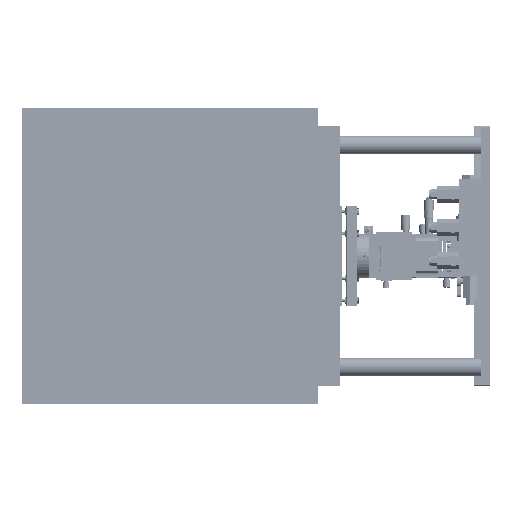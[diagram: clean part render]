
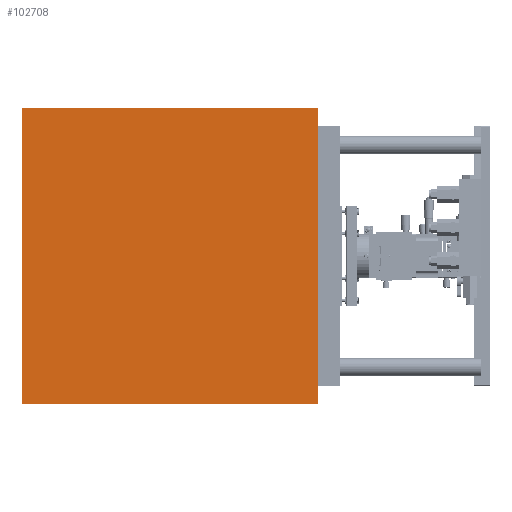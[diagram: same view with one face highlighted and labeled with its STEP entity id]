
A CAD part, left-side view. The second image highlights one B-rep face of the part: STEP entity #102708.
In plain terms, the highlighted planar face has unit normal (-1, 0, 0) as drawn and (0, 0, 1) by its records, which use the part's own axes.
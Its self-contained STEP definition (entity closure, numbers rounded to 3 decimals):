
#6982 = ORIENTED_EDGE ( 'NONE', *, *, #133675, .T. ) ;
#10698 = VECTOR ( 'NONE', #150270, 1000. ) ;
#19498 = CARTESIAN_POINT ( 'NONE',  ( 200., 200., 400. ) ) ;
#21254 = ORIENTED_EDGE ( 'NONE', *, *, #92713, .T. ) ;
#25551 = FACE_OUTER_BOUND ( 'NONE', #104534, .T. ) ;
#29879 = CARTESIAN_POINT ( 'NONE',  ( -200., -200., 400. ) ) ;
#38735 = VERTEX_POINT ( 'NONE', #170141 ) ;
#51090 = LINE ( 'NONE', #175888, #178907 ) ;
#52776 = LINE ( 'NONE', #85006, #107371 ) ;
#59833 = DIRECTION ( 'NONE',  ( 1., 0., 0. ) ) ;
#68156 = LINE ( 'NONE', #151285, #10698 ) ;
#75951 = EDGE_CURVE ( 'NONE', #119399, #157152, #51090, .T. ) ;
#76450 = DIRECTION ( 'NONE',  ( 0., 0., 1. ) ) ;
#77474 = PLANE ( 'NONE',  #186367 ) ;
#85006 = CARTESIAN_POINT ( 'NONE',  ( 200., 200., 400. ) ) ;
#92713 = EDGE_CURVE ( 'NONE', #38735, #142431, #155730, .T. ) ;
#93357 = DIRECTION ( 'NONE',  ( 1., 0., 0. ) ) ;
#97594 = DIRECTION ( 'NONE',  ( 0., 1., 0. ) ) ;
#98923 = DIRECTION ( 'NONE',  ( -1., 0., 0. ) ) ;
#102708 = ADVANCED_FACE ( 'NONE', ( #25551 ), #77474, .T. ) ;
#104534 = EDGE_LOOP ( 'NONE', ( #6982, #109594, #186881, #21254 ) ) ;
#107371 = VECTOR ( 'NONE', #97594, 1000. ) ;
#108708 = CARTESIAN_POINT ( 'NONE',  ( 0., 0., 400. ) ) ;
#109594 = ORIENTED_EDGE ( 'NONE', *, *, #75951, .T. ) ;
#119399 = VERTEX_POINT ( 'NONE', #19498 ) ;
#120459 = CARTESIAN_POINT ( 'NONE',  ( 200., -200., 400. ) ) ;
#124417 = CARTESIAN_POINT ( 'NONE',  ( -200., 200., 400. ) ) ;
#133675 = EDGE_CURVE ( 'NONE', #142431, #119399, #52776, .T. ) ;
#142431 = VERTEX_POINT ( 'NONE', #120459 ) ;
#150270 = DIRECTION ( 'NONE',  ( 0., -1., 0. ) ) ;
#151285 = CARTESIAN_POINT ( 'NONE',  ( -200., 200., 400. ) ) ;
#155730 = LINE ( 'NONE', #29879, #173908 ) ;
#157152 = VERTEX_POINT ( 'NONE', #124417 ) ;
#159721 = EDGE_CURVE ( 'NONE', #157152, #38735, #68156, .T. ) ;
#170141 = CARTESIAN_POINT ( 'NONE',  ( -200., -200., 400. ) ) ;
#173908 = VECTOR ( 'NONE', #93357, 1000. ) ;
#175888 = CARTESIAN_POINT ( 'NONE',  ( -200., 200., 400. ) ) ;
#178907 = VECTOR ( 'NONE', #98923, 1000. ) ;
#186367 = AXIS2_PLACEMENT_3D ( 'NONE', #108708, #76450, #59833 ) ;
#186881 = ORIENTED_EDGE ( 'NONE', *, *, #159721, .T. ) ;
